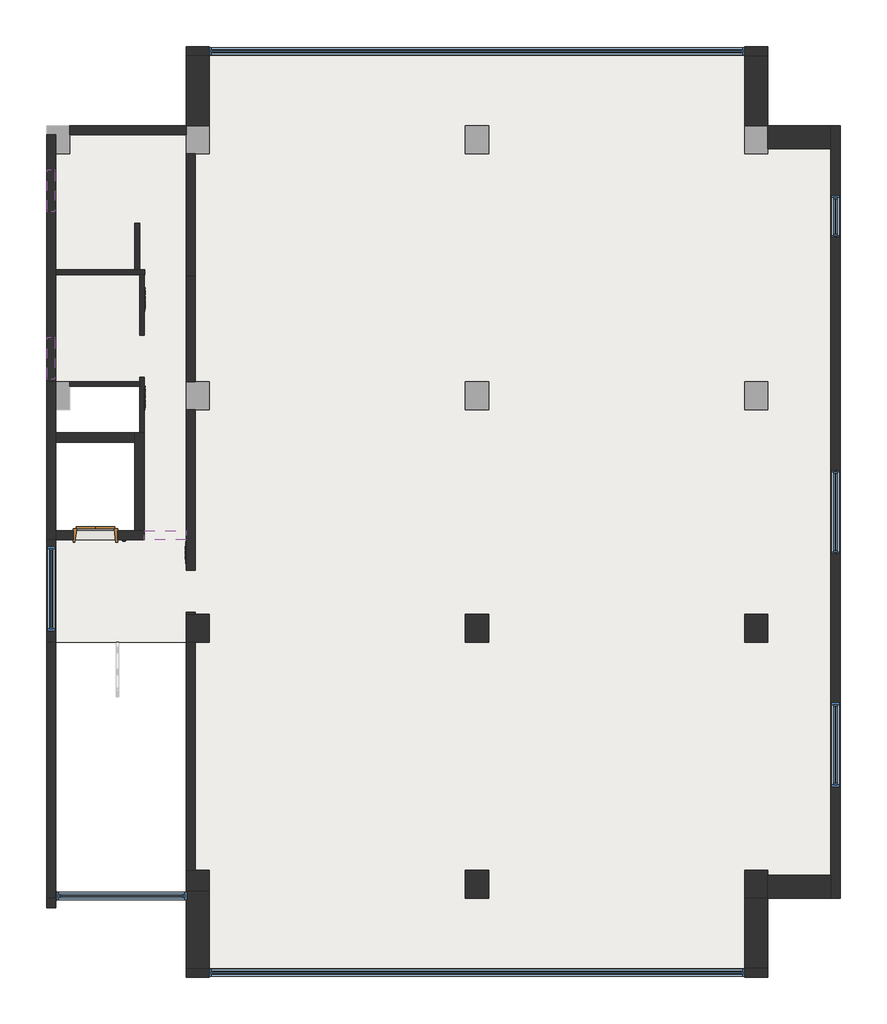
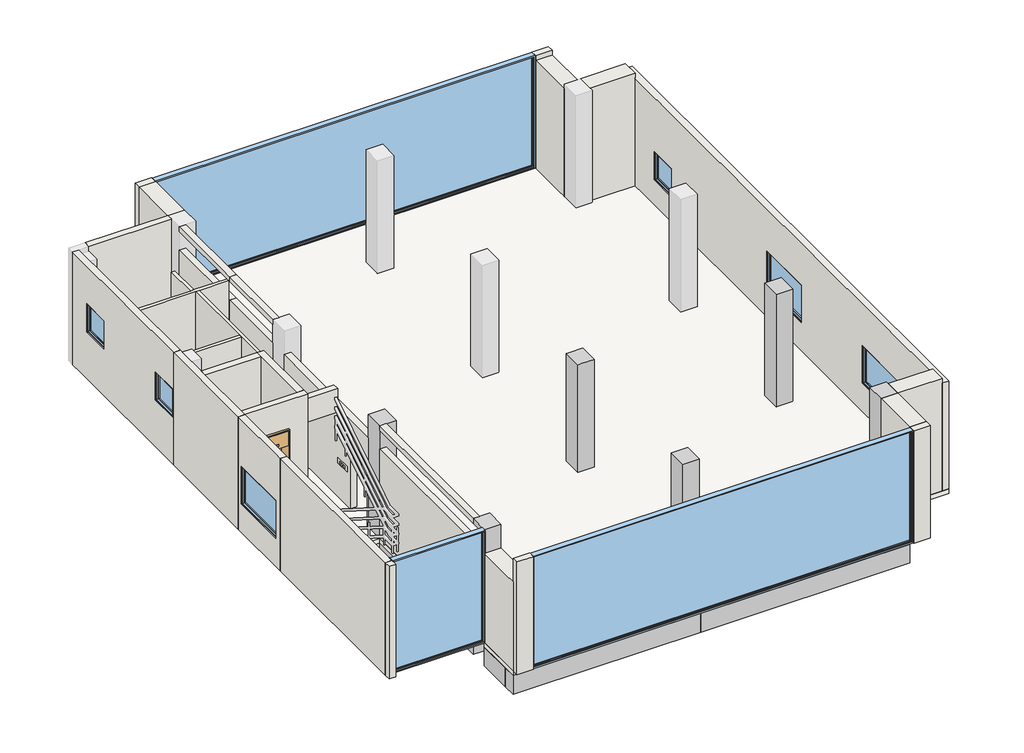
# One storey, part 1 of 2: 31 walls, 14 beams, 9 windows, 6 columns, 1 door, 1 slab.
"""IFC4 building model written with IfcOpenShell, lengths in millimetres."""

from ifc_helpers import new_model, si_unit, frame, origin, place, context, project, spatial, polyline, outline, extrude, faceted_brep, transform, mapped, element, save
from components import door_097e9757, window_16c43cb3, window_f2f41d25, window_07c90ac9, window_8a8d6591, window_3f7671e2

model = new_model("IFC4")

# Units and contexts
model_context = context("Model", 3, world=origin())
ifc_project = project(units=[si_unit("LENGTHUNIT", "METRE", prefix="MILLI")], contexts=[model_context])

# Site, building, storey
site = spatial("IfcSite", under=ifc_project)
building = spatial("IfcBuilding", under=site)
storey = spatial("IfcBuildingStorey", under=building, Name="4층", Elevation=11100.0)

# Beams
placement = place(None, origin())
element("IfcBeam", 1, ObjectType="BM100-구조 보 : BM100-구조 보 400x600", at=placement, inside=storey, context=model_context, shape_type="Brep", body=[
    faceted_brep([(3250.0, 100.0, 10950.0), (3250.0, -300.0, 10950.0), (8750.0, -300.0, 10950.0), (8750.0, 100.0, 10950.0), (5963.2625647, 100.0, 10950.0), (5663.2625647, 100.0, 10950.0), (3250.0, -300.0, 10350.0), (8750.0, -300.0, 10350.0), (3250.0, 100.0, 10350.0), (5663.2625647, 100.0, 10350.0), (5963.2625647, 100.0, 10350.0), (8750.0, 100.0, 10350.0)], [[[0, 1, 2, 3, 4, 5]], [[1, 6, 7, 2]], [[6, 8, 9, 10, 11, 7]], [[8, 0, 5, 4, 3, 11, 10, 9]], [[0, 8, 6, 1]], [[3, 2, 7, 11]]]),
])
element("IfcBeam", 2, ObjectType="BM100-구조 보 : BM100-구조 보 400x600", at=placement, inside=storey, context=model_context, shape_type="Brep", body=[
    faceted_brep([(14750.0, -300.0, 10950.0), (14750.0, 100.0, 10950.0), (11963.2625647, 100.0, 10950.0), (11663.2625647, 100.0, 10950.0), (9250.0, 100.0, 10950.0), (9250.0, -300.0, 10950.0), (14750.0, -300.0, 10350.0), (9250.0, -300.0, 10350.0), (14750.0, 100.0, 10350.0), (9250.0, 100.0, 10350.0), (11663.2625647, 100.0, 10350.0), (11963.2625647, 100.0, 10350.0)], [[[0, 1, 2, 3, 4, 5]], [[6, 0, 5, 7]], [[8, 6, 7, 9, 10, 11]], [[1, 8, 11, 10, 9, 4, 3, 2]], [[1, 0, 6, 8]], [[5, 4, 9, 7]]]),
])
element("IfcBeam", 3, ObjectType="BM100-구조 보 : BM100-구조 보 400x600", at=placement, inside=storey, context=model_context, shape_type="Brep", body=[
    faceted_brep([(14750.0, 5300.0, 10950.0), (14750.0, 5700.0, 10950.0), (11963.2625647, 5700.0, 10950.0), (11663.2625647, 5700.0, 10950.0), (9250.0, 5700.0, 10950.0), (9250.0, 5300.0, 10950.0), (11663.2625647, 5300.0, 10950.0), (11963.2625647, 5300.0, 10950.0), (14750.0, 5300.0, 10350.0), (9250.0, 5300.0, 10350.0), (11663.2625647, 5300.0, 10350.0), (11963.2625647, 5300.0, 10350.0), (14750.0, 5700.0, 10350.0), (9250.0, 5700.0, 10350.0), (11663.2625647, 5700.0, 10350.0), (11963.2625647, 5700.0, 10350.0)], [[[0, 1, 2, 3, 4, 5, 6, 7]], [[8, 0, 7, 6, 5, 9, 10, 11]], [[12, 8, 11, 10, 9, 13, 14, 15]], [[1, 12, 15, 14, 13, 4, 3, 2]], [[1, 0, 8, 12]], [[5, 4, 13, 9]]]),
])
element("IfcBeam", 4, ObjectType="BM100-구조 보 : BM100-구조 보 400x600", at=placement, inside=storey, context=model_context, shape_type="SweptSolid", body=[
    extrude(outline(polyline([(14850.0, 5200.0), (15250.0, 5200.0), (15250.0, 300.0), (14850.0, 300.0), (14850.0, 5200.0)])), frame((0.0, 0.0, 10350.0), z_axis=(0.0, 0.0, 1.0), x_axis=(1.0, 0.0, 0.0)), (0.0, 0.0, 1.0), 600.0),
])
element("IfcBeam", 5, ObjectType="BM100-구조 보 : BM100-구조 보 300x600", at=placement, inside=storey, context=model_context, shape_type="SweptSolid", body=[
    extrude(outline(polyline([(11663.2625647, 5300.0), (11963.2625647, 5300.0), (11963.2625647, 100.0), (11663.2625647, 100.0), (11663.2625647, 5300.0)])), frame((0.0, 0.0, 10350.0), z_axis=(0.0, 0.0, 1.0), x_axis=(1.0, 0.0, 0.0)), (0.0, 0.0, 1.0), 600.0),
])
element("IfcBeam", 6, ObjectType="BM100-구조 보 : BM100-구조 보 400x600", at=placement, inside=storey, context=model_context, shape_type="SweptSolid", body=[
    extrude(outline(polyline([(9250.0, 300.0), (8850.0, 300.0), (8850.0, 5200.0), (9250.0, 5200.0), (9250.0, 300.0)])), frame((0.0, 0.0, 10350.0), z_axis=(0.0, 0.0, 1.0), x_axis=(1.0, 0.0, 0.0)), (0.0, 0.0, 1.0), 600.0),
])
element("IfcBeam", 7, ObjectType="BM100-구조 보 : BM100-구조 보 400x600", at=placement, inside=storey, context=model_context, shape_type="Brep", body=[
    faceted_brep([(2750.0, 300.0, 10950.0), (2950.0, 300.0, 10950.0), (3150.0, 300.0, 10950.0), (3150.0, 5200.0, 10950.0), (2950.0, 5200.0, 10950.0), (2750.0, 5200.0, 10950.0), (3150.0, 300.0, 10350.0), (3150.0, 5200.0, 10350.0), (2950.0, 300.0, 10350.0), (2750.0, 300.0, 10350.0), (2750.0, 5200.0, 10350.0), (2950.0, 5200.0, 10350.0)], [[[0, 1, 2, 3, 4, 5]], [[2, 6, 7, 3]], [[6, 8, 9, 10, 11, 7]], [[9, 0, 5, 10]], [[2, 1, 0, 9, 8, 6]], [[5, 4, 3, 7, 11, 10]]]),
])
element("IfcBeam", 8, ObjectType="BM100-구조 보 : BM100-구조 보 400x600", at=placement, inside=storey, context=model_context, shape_type="Brep", body=[
    faceted_brep([(8750.0, 5300.0, 10950.0), (8750.0, 5700.0, 10950.0), (5963.2625647, 5700.0, 10950.0), (5663.2625647, 5700.0, 10950.0), (3250.0, 5700.0, 10950.0), (3250.0, 5300.0, 10950.0), (5663.2625647, 5300.0, 10950.0), (5963.2625647, 5300.0, 10950.0), (8750.0, 5300.0, 10350.0), (3250.0, 5300.0, 10350.0), (5663.2625647, 5300.0, 10350.0), (5963.2625647, 5300.0, 10350.0), (8750.0, 5700.0, 10350.0), (3250.0, 5700.0, 10350.0), (5663.2625647, 5700.0, 10350.0), (5963.2625647, 5700.0, 10350.0)], [[[0, 1, 2, 3, 4, 5, 6, 7]], [[8, 0, 7, 6, 5, 9, 10, 11]], [[12, 8, 11, 10, 9, 13, 14, 15]], [[1, 12, 15, 14, 13, 4, 3, 2]], [[1, 0, 8, 12]], [[5, 4, 13, 9]]]),
])
element("IfcBeam", 9, ObjectType="BM100-구조 보 : BM100-구조 보 300x600", at=placement, inside=storey, context=model_context, shape_type="SweptSolid", body=[
    extrude(outline(polyline([(5663.2625647, 5300.0), (5963.2625647, 5300.0), (5963.2625647, 100.0), (5663.2625647, 100.0), (5663.2625647, 5300.0)])), frame((0.0, 0.0, 10350.0), z_axis=(0.0, 0.0, 1.0), x_axis=(1.0, 0.0, 0.0)), (0.0, 0.0, 1.0), 600.0),
])
element("IfcBeam", 10, ObjectType="BM100-구조 보 : BM100-구조 보 400x600", at=placement, inside=storey, context=model_context, shape_type="SweptSolid", body=[
    extrude(outline(polyline([(15250.0, 5300.0), (15250.0, 5700.0), (16600.0, 5700.0), (16600.0, 5300.0), (15250.0, 5300.0)])), frame((0.0, 0.0, 10350.0), z_axis=(0.0, 0.0, 1.0), x_axis=(1.0, 0.0, 0.0)), (0.0, 0.0, 1.0), 600.0),
])
element("IfcBeam", 11, ObjectType="BM100-구조 보 : BM100-구조 보 400x600", at=placement, inside=storey, context=model_context, shape_type="Brep", body=[
    faceted_brep([(8424.6, -1800.0, 10950.0), (8424.6, -1400.0, 10950.0), (8424.6, -1400.0, 10350.0), (8424.6, -1800.0, 10350.0), (14750.0, -1800.0, 10950.0), (14750.0, -1400.0, 10950.0), (9250.0, -1400.0, 10950.0), (8850.0, -1400.0, 10950.0), (14750.0, -1800.0, 10350.0), (8850.0, -1400.0, 10350.0), (9250.0, -1400.0, 10350.0), (14750.0, -1400.0, 10350.0)], [[[0, 1, 2, 3]], [[1, 0, 4, 5, 6, 7]], [[0, 3, 8, 4]], [[3, 2, 9, 10, 11, 8]], [[2, 1, 7, 6, 5, 11, 10, 9]], [[5, 4, 8, 11]]]),
])
element("IfcBeam", 12, ObjectType="BM100-구조 보 : BM100-구조 보 400x600", at=placement, inside=storey, context=model_context, shape_type="SweptSolid", body=[
    extrude(outline(polyline([(8850.0, -300.0), (9250.0, -300.0), (9250.0, -1400.0), (8850.0, -1400.0), (8850.0, -300.0)])), frame((0.0, 0.0, 10350.0), z_axis=(0.0, 0.0, 1.0), x_axis=(1.0, 0.0, 0.0)), (0.0, 0.0, 1.0), 600.0),
])
element("IfcBeam", 13, ObjectType="BM100-구조 보 : BM100-구조 보 400x600", at=placement, inside=storey, context=model_context, shape_type="Brep", body=[
    faceted_brep([(2750.0, -1400.0, 10950.0), (2750.0, -1800.0, 10950.0), (8424.6, -1800.0, 10950.0), (8424.6, -1400.0, 10950.0), (3150.0, -1400.0, 10950.0), (2750.0, -1800.0, 10350.0), (3250.0, -1800.0, 10350.0), (8424.6, -1800.0, 10350.0), (2750.0, -1400.0, 10350.0), (3150.0, -1400.0, 10350.0), (8424.6, -1400.0, 10350.0)], [[[0, 1, 2, 3, 4]], [[1, 5, 6, 7, 2]], [[5, 8, 9, 10, 7, 6]], [[8, 0, 4, 3, 10, 9]], [[1, 0, 8, 5]], [[3, 2, 7, 10]]]),
])
element("IfcBeam", 14, ObjectType="BM100-구조 보 : BM100-구조 보 400x600", at=placement, inside=storey, context=model_context, shape_type="Brep", body=[
    faceted_brep([(2750.0, -1400.0, 10950.0), (2750.0, -1400.0, 10350.0), (3150.0, -1400.0, 10350.0), (3150.0, -1400.0, 10950.0), (3150.0, -300.0, 10950.0), (2750.0, -300.0, 10950.0), (3150.0, -300.0, 10350.0), (2750.0, -350.0, 10350.0), (2750.0, -300.0, 10350.0)], [[[0, 1, 2, 3]], [[0, 3, 4, 5]], [[3, 2, 6, 4]], [[2, 1, 7, 8, 6]], [[1, 0, 5, 8, 7]], [[5, 4, 6, 8]]]),
])

# Columns
element("IfcColumn", 15, ObjectType="CL100-구조 기둥 : CL100-구조 기둥_500x600", at=placement, inside=storey, context=model_context, shape_type="Brep", body=[
    faceted_brep([(2750.0, -300.0, 11100.0), (2750.0, 300.0, 11100.0), (3250.0, 300.0, 11100.0), (3250.0, -150.0, 11100.0), (2761.4613019, -150.0, 11100.0), (2761.4613019, -300.0, 11100.0), (2750.0, -300.0, 14700.0), (2750.0, 300.0, 14700.0), (2750.0, 300.0, 14550.0), (2750.0, 25.0, 14550.0), (2750.0, 25.0, 13950.0), (2750.0, 300.0, 13950.0), (3150.0, 300.0, 13950.0), (3150.0, 300.0, 14550.0), (3250.0, 300.0, 14700.0), (3250.0, -300.0, 14700.0), (3250.0, -300.0, 13950.0), (3250.0, -150.0, 13950.0), (2761.4613019, -300.0, 13950.0), (3150.0, 25.0, 14550.0), (3150.0, 25.0, 13950.0), (2761.4613019, -150.0, 13950.0)], [[[0, 1, 2, 3, 4, 5]], [[1, 0, 6, 7, 8, 9, 10, 11]], [[2, 1, 11, 12, 13, 8, 7, 14]], [[2, 14, 15, 16, 17, 3]], [[6, 0, 5, 18, 16, 15]], [[7, 6, 15, 14]], [[13, 19, 9, 8]], [[19, 13, 12, 20]], [[20, 12, 11, 10]], [[21, 17, 16, 18]], [[17, 21, 4, 3]], [[9, 19, 20, 10]], [[4, 21, 18, 5]]]),
])
element("IfcColumn", 16, ObjectType="CL100-구조 기둥 : CL100-구조 기둥_500x600", at=placement, inside=storey, context=model_context, shape_type="Brep", body=[
    faceted_brep([(8750.0, -300.0, 11100.0), (8750.0, 300.0, 11100.0), (9250.0, 300.0, 11100.0), (9250.0, -300.0, 11100.0), (8750.0, -300.0, 14700.0), (8750.0, 300.0, 14700.0), (8750.0, -300.0, 13950.0), (8750.0, -300.0, 14550.0), (9250.0, 300.0, 14700.0), (9250.0, 300.0, 14550.0), (9250.0, 300.0, 13950.0), (9250.0, -300.0, 14700.0), (9250.0, -300.0, 14550.0), (9250.0, -300.0, 13950.0)], [[[0, 1, 2, 3]], [[4, 5, 1, 0, 6, 7]], [[5, 8, 9, 10, 2, 1]], [[8, 11, 12, 13, 3, 2, 10, 9]], [[11, 4, 7, 6, 0, 3, 13, 12]], [[4, 11, 8, 5]]]),
])
element("IfcColumn", 17, ObjectType="CL100-구조 기둥 : CL100-구조 기둥_500x600", at=placement, inside=storey, context=model_context, shape_type="Brep", body=[
    faceted_brep([(2750.0, 5200.0, 11100.0), (2750.0, 5800.0, 11100.0), (3250.0, 5800.0, 11100.0), (3250.0, 5200.0, 11100.0), (2750.0, 5200.0, 14700.0), (2750.0, 5800.0, 14700.0), (2750.0, 5800.0, 14550.0), (2750.0, 5800.0, 13950.0), (2750.0, 5200.0, 13950.0), (2750.0, 5200.0, 14550.0), (3250.0, 5800.0, 14700.0), (3250.0, 5200.0, 14700.0)], [[[0, 1, 2, 3]], [[4, 5, 6, 7, 1, 0, 8, 9]], [[5, 10, 2, 1, 7, 6]], [[10, 11, 3, 2]], [[11, 4, 9, 8, 0, 3]], [[4, 11, 10, 5]]]),
])
element("IfcColumn", 18, ObjectType="CL100-구조 기둥 : CL100-구조 기둥_500x600", at=placement, inside=storey, context=model_context, shape_type="Brep", body=[
    faceted_brep([(8750.0, 5200.0, 11100.0), (8750.0, 5800.0, 11100.0), (9250.0, 5800.0, 11100.0), (9250.0, 5200.0, 11100.0), (8750.0, 5200.0, 14550.0), (8750.0, 5800.0, 14550.0), (8850.0, 5800.0, 14550.0), (9250.0, 5800.0, 14550.0), (9250.0, 5800.0, 13950.0), (9250.0, 5700.0, 14550.0), (9250.0, 5300.0, 14550.0), (9250.0, 5200.0, 14550.0), (9250.0, 5200.0, 13950.0), (8850.0, 5200.0, 14550.0)], [[[0, 1, 2, 3]], [[1, 0, 4, 5]], [[2, 1, 5, 6, 7, 8]], [[3, 2, 8, 7, 9, 10, 11, 12]], [[0, 3, 12, 11, 13, 4]], [[5, 4, 13, 11, 10, 9, 7, 6]]]),
])
element("IfcColumn", 19, ObjectType="CL100-구조 기둥 : CL100-구조 기둥_500x600", at=placement, inside=storey, context=model_context, shape_type="SweptSolid", body=[
    extrude(outline(polyline([(14750.0, 5200.0), (14750.0, 5800.0), (15250.0, 5800.0), (15250.0, 5200.0), (14750.0, 5200.0)])), frame((0.0, 0.0, 11100.0), z_axis=(0.0, 0.0, 1.0), x_axis=(1.0, 0.0, 0.0)), (0.0, 0.0, 1.0), 3600.0),
])
element("IfcColumn", 20, ObjectType="CL100-구조 기둥 : CL100-구조 기둥_500x600", at=placement, inside=storey, context=model_context, shape_type="SweptSolid", body=[
    extrude(outline(polyline([(14750.0, -300.0), (14750.0, 300.0), (15250.0, 300.0), (15250.0, -300.0), (14750.0, -300.0)])), frame((0.0, 0.0, 11100.0), z_axis=(0.0, 0.0, 1.0), x_axis=(1.0, 0.0, 0.0)), (0.0, 0.0, 1.0), 3600.0),
])

# Door
door_shape = door_097e9757(model_context)
element("IfcDoor", 21, ObjectType="XX111-승객용 엘리베이터 (다용도, 800KG) 상판 출입구800 : 엘리베이터 800", at=placement, inside=storey, context=model_context, shape_type="MappedRepresentation", body=[
    mapped(door_shape, transform((925.0, 7500.0, 11200.0), x_axis=(-1.0, 0.0, 0.0), y_axis=(0.0, -1.0, 0.0), z_axis=(0.0, 0.0, 1.0))),
])

# Slab
element("IfcSlab", 22, ObjectType="SL100-구조 바닥 150", at=placement, inside=storey, context=model_context, shape_type="Brep", body=[
    faceted_brep([(-50.0, 5200.0, 10950.0), (-50.0, 7400.0, 10950.0), (1850.0, 7400.0, 10950.0), (1850.0, 7600.0, 10950.0), (1850.0, 9700.0, 10950.0), (1750.0, 9700.0, 10950.0), (1750.0, 10700.0, 10950.0), (250.0, 10700.0, 10950.0), (-50.0, 10700.0, 10950.0), (-50.0, 10800.0, 10950.0), (-50.0, 15700.0, 10950.0), (-50.0, 16100.0, 10950.0), (250.0, 16100.0, 10950.0), (2750.0, 16100.0, 10950.0), (2750.0, 15700.0, 10950.0), (3150.0, 15700.0, 10950.0), (3250.0, 15700.0, 10950.0), (3250.0, 15900.0, 10950.0), (3250.0, 16300.0, 10950.0), (3250.0, 17400.0, 10950.0), (3250.0, 17800.0, 10950.0), (8850.0, 17800.0, 10950.0), (14750.0, 17800.0, 10950.0), (15250.0, 17800.0, 10950.0), (15250.0, 16300.0, 10950.0), (16800.0, 16300.0, 10950.0), (16800.0, -300.0, 10950.0), (15250.0, -300.0, 10950.0), (15250.0, 200.0, 10950.0), (14750.0, 200.0, 10950.0), (14750.0, 100.0, 10950.0), (14750.0, -300.0, 10950.0), (14750.0, -1400.0, 10950.0), (14750.0, -1800.0, 10950.0), (8424.6, -1800.0, 10950.0), (2750.0, -1800.0, 10950.0), (2750.0, -1400.0, 10950.0), (2750.0, -300.0, 10950.0), (3150.0, -300.0, 10950.0), (3250.0, -300.0, 10950.0), (3250.0, 100.0, 10950.0), (3250.0, 300.0, 10950.0), (3150.0, 300.0, 10950.0), (2750.0, 300.0, 10950.0), (2750.0, 5200.0, 10950.0), (-50.0, 7400.0, 11100.0), (-50.0, 5200.0, 11100.0), (2750.0, 5200.0, 11100.0), (2750.0, 300.0, 11100.0), (3250.0, 300.0, 11100.0), (3250.0, -300.0, 11100.0), (2750.0, -300.0, 11100.0), (2750.0, -1800.0, 11100.0), (14750.0, -1800.0, 11100.0), (14750.0, -300.0, 11100.0), (14750.0, 200.0, 11100.0), (15250.0, 200.0, 11100.0), (15250.0, -300.0, 11100.0), (16800.0, -300.0, 11100.0), (16800.0, 16300.0, 11100.0), (15250.0, 16300.0, 11100.0), (15250.0, 17800.0, 11100.0), (3250.0, 17800.0, 11100.0), (3250.0, 16300.0, 11100.0), (3250.0, 16100.0, 11100.0), (3250.0, 15700.0, 11100.0), (2750.0, 15700.0, 11100.0), (2750.0, 16100.0, 11100.0), (250.0, 16100.0, 11100.0), (-50.0, 16100.0, 11100.0), (-50.0, 15700.0, 11100.0), (-50.0, 10800.0, 11100.0), (-50.0, 10700.0, 11100.0), (250.0, 10700.0, 11100.0), (1750.0, 10700.0, 11100.0), (1750.0, 9700.0, 11100.0), (1850.0, 9700.0, 11100.0), (1850.0, 7600.0, 11100.0), (1850.0, 7400.0, 11100.0)], [[[0, 1, 2, 3, 4, 5, 6, 7, 8, 9, 10, 11, 12, 13, 14, 15, 16, 17, 18, 19, 20, 21, 22, 23, 24, 25, 26, 27, 28, 29, 30, 31, 32, 33, 34, 35, 36, 37, 38, 39, 40, 41, 42, 43, 44]], [[45, 46, 47, 48, 49, 50, 51, 52, 53, 54, 55, 56, 57, 58, 59, 60, 61, 62, 63, 64, 65, 66, 67, 68, 69, 70, 71, 72, 73, 74, 75, 76, 77, 78]], [[1, 0, 46, 45]], [[47, 44, 43, 48]], [[35, 52, 51, 37, 36]], [[0, 44, 47, 46]], [[26, 25, 59, 58]], [[52, 35, 34, 33, 53]], [[2, 1, 45, 78]], [[4, 3, 2, 78, 77, 76]], [[8, 7, 6, 74, 73, 72]], [[11, 10, 9, 8, 72, 71, 70, 69]], [[43, 42, 41, 49, 48]], [[39, 50, 49, 41, 40]], [[50, 39, 38, 37, 51]], [[66, 14, 13, 67]], [[14, 66, 65, 16, 15]], [[5, 4, 76, 75]], [[6, 5, 75, 74]], [[13, 12, 11, 69, 68, 67]], [[61, 23, 22, 21, 20, 62]], [[24, 23, 61, 60]], [[25, 24, 60, 59]], [[27, 26, 58, 57]], [[16, 65, 64, 63, 62, 20, 19, 18, 17]], [[29, 55, 54, 53, 33, 32, 31, 30]], [[56, 28, 27, 57]], [[55, 29, 28, 56]]]),
])

# Walls
element("IfcWall", 23, ObjectType="WA100-구조 벽 500", at=placement, inside=storey, context=model_context, shape_type="Brep", body=[
    faceted_brep([(2750.0, -1800.0, 11100.0), (2750.0, -1800.0, 13950.0), (2750.0, -1400.0, 13950.0), (2750.0, -350.0, 13950.0), (2750.0, -350.0, 11100.0), (3250.0, -1800.0, 11100.0), (3250.0, -300.0, 11100.0), (3250.0, -150.0, 11100.0), (3250.0, -150.0, 13950.0), (3250.0, -300.0, 13950.0), (3250.0, -1800.0, 13950.0), (2761.4613019, -350.0, 11100.0), (2761.4613019, -300.0, 11100.0), (2761.4613019, -150.0, 11100.0), (2761.4613019, -150.0, 13950.0), (2761.4613019, -300.0, 13950.0), (2761.4613019, -350.0, 13950.0)], [[[0, 1, 2, 3, 4]], [[5, 6, 7, 8, 9, 10]], [[7, 6, 5, 0, 4, 11, 12, 13]], [[10, 9, 8, 14, 15, 16, 3, 2, 1]], [[1, 0, 5, 10]], [[8, 7, 13, 14]], [[16, 11, 4, 3]], [[11, 16, 15, 14, 13, 12]]]),
])
element("IfcWall", 24, ObjectType="WA100-구조 벽 500", at=placement, inside=storey, context=model_context, shape_type="Brep", body=[
    faceted_brep([(14750.0, -1800.0, 11100.0), (14750.0, -1800.0, 14550.0), (14750.0, -1800.0, 14700.0), (14750.0, -300.0, 14700.0), (14750.0, -300.0, 11100.0), (15250.0, -1800.0, 14700.0), (15250.0, -1800.0, 11100.0), (15250.0, -300.0, 11100.0), (15250.0, -300.0, 14700.0)], [[[0, 1, 2, 3, 4]], [[5, 6, 7, 8]], [[6, 0, 4, 7]], [[2, 5, 8, 3]], [[4, 3, 8, 7]], [[2, 1, 0, 6, 5]]]),
])
element("IfcWall", 25, ObjectType="WA100-구조 벽 200", at=placement, inside=storey, context=model_context, shape_type="Brep", body=[
    faceted_brep([(16800.0, -300.0, 11100.0), (16800.0, 16300.0, 11100.0), (16800.0, 16300.0, 14550.0), (16800.0, -300.0, 14550.0), (16800.0, 8900.0, 13200.0), (16800.0, 8900.0, 12000.0), (16800.0, 7100.0, 12000.0), (16800.0, 7100.0, 13200.0), (16800.0, 14800.0, 12800.0), (16800.0, 14800.0, 11900.0), (16800.0, 13900.0, 11900.0), (16800.0, 13900.0, 12800.0), (16800.0, 3900.0, 13200.0), (16800.0, 3900.0, 12000.0), (16800.0, 2100.0, 12000.0), (16800.0, 2100.0, 13200.0), (16600.0, 16300.0, 11100.0), (16600.0, 15800.0, 11100.0), (16600.0, 200.0, 11100.0), (16600.0, -300.0, 11100.0), (16600.0, -300.0, 14550.0), (16600.0, 16300.0, 14550.0), (16600.0, 8900.0, 12000.0), (16600.0, 8900.0, 13200.0), (16600.0, 7100.0, 13200.0), (16600.0, 7100.0, 12000.0), (16600.0, 14800.0, 11900.0), (16600.0, 14800.0, 12800.0), (16600.0, 13900.0, 12800.0), (16600.0, 13900.0, 11900.0), (16600.0, 3900.0, 12000.0), (16600.0, 3900.0, 13200.0), (16600.0, 2100.0, 13200.0), (16600.0, 2100.0, 12000.0)], [[[0, 1, 2, 3], [4, 5, 6, 7], [8, 9, 10, 11], [12, 13, 14, 15]], [[16, 17, 18, 19, 20, 21], [22, 23, 24, 25], [26, 27, 28, 29], [30, 31, 32, 33]], [[1, 0, 19, 18, 17, 16]], [[19, 0, 3, 20]], [[1, 16, 21, 2]], [[5, 4, 23, 22]], [[6, 5, 22, 25]], [[7, 6, 25, 24]], [[4, 7, 24, 23]], [[9, 8, 27, 26]], [[10, 9, 26, 29]], [[11, 10, 29, 28]], [[8, 11, 28, 27]], [[13, 12, 31, 30]], [[14, 13, 30, 33]], [[15, 14, 33, 32]], [[12, 15, 32, 31]], [[3, 2, 21, 20]]]),
])
element("IfcWall", 26, ObjectType="WA100-구조 벽 500", at=placement, inside=storey, context=model_context, shape_type="SweptSolid", body=[
    extrude(outline(polyline([(16600.0, -300.0), (15250.0, -300.0), (15250.0, 200.0), (16600.0, 200.0), (16600.0, -300.0)])), frame((0.0, 0.0, 11100.0), z_axis=(0.0, 0.0, 1.0), x_axis=(1.0, 0.0, 0.0)), (0.0, 0.0, 1.0), 3600.0),
])
element("IfcWall", 27, ObjectType="WA100-구조 벽 500", at=placement, inside=storey, context=model_context, shape_type="Brep", body=[
    faceted_brep([(3250.0, 17800.0, 11100.0), (3250.0, 17800.0, 14550.0), (3250.0, 17800.0, 14700.0), (3250.0, 16300.0, 14700.0), (3250.0, 16300.0, 11100.0), (2750.0, 17800.0, 14700.0), (2750.0, 17800.0, 11100.0), (2750.0, 16300.0, 11100.0), (2750.0, 16300.0, 14700.0)], [[[0, 1, 2, 3, 4]], [[5, 6, 7, 8]], [[6, 0, 4, 7]], [[2, 1, 0, 6, 5]], [[2, 5, 8, 3]], [[4, 3, 8, 7]]]),
])
element("IfcWall", 28, ObjectType="WA100-구조 벽 500", at=placement, inside=storey, context=model_context, shape_type="SweptSolid", body=[
    extrude(outline(polyline([(14750.0, 17800.0), (15250.0, 17800.0), (15250.0, 16300.0), (14750.0, 16300.0), (14750.0, 17800.0)])), frame((0.0, 0.0, 11100.0), z_axis=(0.0, 0.0, 1.0), x_axis=(1.0, 0.0, 0.0)), (0.0, 0.0, 1.0), 3450.0),
])
element("IfcWall", 29, ObjectType="WA100-구조 벽 500", at=placement, inside=storey, context=model_context, shape_type="Brep", body=[
    faceted_brep([(15250.0, 15800.0, 11100.0), (16600.0, 15800.0, 11100.0), (16600.0, 15800.0, 14700.0), (15250.0, 15800.0, 14700.0), (15250.0, 16300.0, 11100.0), (15250.0, 16300.0, 14700.0), (16600.0, 16300.0, 14700.0), (16600.0, 16300.0, 14550.0), (16600.0, 16300.0, 11100.0)], [[[0, 1, 2, 3]], [[4, 5, 6, 7, 8]], [[1, 0, 4, 8]], [[3, 2, 6, 5]], [[2, 1, 8, 7, 6]], [[0, 3, 5, 4]]]),
])
element("IfcWall", 30, ObjectType="WA100-구조 벽 200", at=placement, inside=storey, context=model_context, shape_type="SweptSolid", body=[
    extrude(outline(polyline([(-50.0, 5200.0), (-50.0, -300.0), (-250.0, -300.0), (-250.0, 5200.0), (-50.0, 5200.0)])), frame((0.0, 0.0, 11100.0), z_axis=(0.0, 0.0, 1.0), x_axis=(1.0, 0.0, 0.0)), (0.0, 0.0, 1.0), 3600.0),
])
element("IfcWall", 31, ObjectType="WA100-구조 벽 200", at=placement, inside=storey, context=model_context, shape_type="Brep", body=[
    faceted_brep([(-50.0, 7400.0, 11100.0), (1850.0, 7400.0, 11100.0), (1850.0, 7400.0, 13800.0), (1850.0, 7400.0, 14550.0), (1850.0, 7400.0, 14700.0), (-50.0, 7400.0, 14700.0), (-50.0, 7400.0, 14550.0), (1275.0, 7400.0, 13800.0), (1275.0, 7400.0, 11200.0), (325.0, 7400.0, 11200.0), (325.0, 7400.0, 13800.0), (1850.0, 7600.0, 11100.0), (1650.0, 7600.0, 11100.0), (-50.0, 7600.0, 11100.0), (-50.0, 7600.0, 14700.0), (1650.0, 7600.0, 14700.0), (1850.0, 7600.0, 14700.0), (1850.0, 7600.0, 14550.0), (1850.0, 7600.0, 13800.0), (1275.0, 7600.0, 11200.0), (1275.0, 7600.0, 13800.0), (325.0, 7600.0, 13800.0), (325.0, 7600.0, 11200.0)], [[[0, 1, 2, 3, 4, 5, 6], [7, 8, 9, 10]], [[11, 12, 13, 14, 15, 16, 17, 18], [19, 20, 21, 22]], [[1, 0, 13, 12, 11]], [[5, 4, 16, 15, 14]], [[7, 20, 19, 8]], [[8, 19, 22, 9]], [[21, 10, 9, 22]], [[20, 7, 10, 21]], [[5, 14, 13, 0, 6]], [[1, 11, 18, 17, 16, 4, 3, 2]]]),
])
element("IfcWall", 32, ObjectType="WA700-수장 벽 100", at=placement, inside=storey, context=model_context, shape_type="SweptSolid", body=[
    extrude(outline(polyline([(1750.0, 10700.0), (250.0, 10700.0), (250.0, 10800.0), (1750.0, 10800.0), (1750.0, 10700.0)])), frame((0.0, 0.0, 11100.0), z_axis=(0.0, 0.0, 1.0), x_axis=(1.0, 0.0, 0.0)), (0.0, 0.0, 1.0), 3450.0),
])
element("IfcWall", 33, ObjectType="WA100-구조 벽 200", at=placement, inside=storey, context=model_context, shape_type="Brep", body=[
    faceted_brep([(1850.0, 7600.0, 14700.0), (1850.0, 7600.0, 11100.0), (1850.0, 9700.0, 11100.0), (1850.0, 9700.0, 14700.0), (1650.0, 7600.0, 11100.0), (1650.0, 7600.0, 14700.0), (1650.0, 9500.0, 14700.0), (1650.0, 9700.0, 14700.0), (1650.0, 9700.0, 11100.0), (1650.0, 9500.0, 11100.0)], [[[0, 1, 2, 3]], [[4, 5, 6, 7, 8, 9]], [[2, 1, 4, 9, 8]], [[0, 3, 7, 6, 5]], [[2, 8, 7, 3]], [[0, 5, 4, 1]]]),
])
element("IfcWall", 34, ObjectType="WA100-구조 벽 200", at=placement, inside=storey, context=model_context, shape_type="SweptSolid", body=[
    extrude(outline(polyline([(1650.0, 9500.0), (-50.0, 9500.0), (-50.0, 9700.0), (1650.0, 9700.0), (1650.0, 9500.0)])), frame((0.0, 0.0, 11100.0), z_axis=(0.0, 0.0, 1.0), x_axis=(1.0, 0.0, 0.0)), (0.0, 0.0, 1.0), 3600.0),
])
element("IfcWall", 35, ObjectType="WA700-수장 벽 100", at=placement, inside=storey, context=model_context, shape_type="Brep", body=[
    faceted_brep([(1750.0, 9700.0, 11100.0), (1750.0, 9700.0, 14550.0), (1750.0, 10700.0, 14550.0), (1750.0, 10800.0, 14550.0), (1750.0, 13100.0, 14550.0), (1750.0, 13100.0, 11100.0), (1750.0, 11795.0, 11100.0), (1750.0, 11795.0, 12900.0), (1750.0, 10895.0, 12900.0), (1750.0, 10895.0, 11100.0), (1750.0, 10800.0, 11100.0), (1750.0, 10700.0, 11100.0), (1850.0, 13100.0, 14550.0), (1850.0, 9700.0, 14550.0), (1850.0, 9700.0, 11100.0), (1850.0, 10895.0, 11100.0), (1850.0, 10895.0, 12900.0), (1850.0, 11795.0, 12900.0), (1850.0, 11795.0, 11100.0), (1850.0, 13100.0, 11100.0)], [[[0, 1, 2, 3, 4, 5, 6, 7, 8, 9, 10, 11]], [[12, 13, 14, 15, 16, 17, 18, 19]], [[14, 0, 11, 10, 9, 15]], [[5, 19, 18, 6]], [[1, 0, 14, 13]], [[5, 4, 12, 19]], [[13, 12, 4, 3, 2, 1]], [[8, 16, 15, 9]], [[16, 8, 7, 17]], [[17, 7, 6, 18]]]),
])
element("IfcWall", 36, ObjectType="WA700-수장 벽 100", at=placement, inside=storey, context=model_context, shape_type="Brep", body=[
    faceted_brep([(-50.0, 13100.0, 14550.0), (-50.0, 13100.0, 11100.0), (1750.0, 13100.0, 11100.0), (1850.0, 13100.0, 11100.0), (1855.0, 13100.0, 11100.0), (1855.0, 13100.0, 12900.0), (2750.0, 13100.0, 12900.0), (2750.0, 13100.0, 14550.0), (1850.0, 13100.0, 14550.0), (1750.0, 13100.0, 14550.0), (-50.0, 13200.0, 11100.0), (-50.0, 13200.0, 14550.0), (1650.0, 13200.0, 14550.0), (1750.0, 13200.0, 14550.0), (2750.0, 13200.0, 14550.0), (2750.0, 13200.0, 12900.0), (1855.0, 13200.0, 12900.0), (1855.0, 13200.0, 11100.0), (1750.0, 13200.0, 11100.0), (1650.0, 13200.0, 11100.0)], [[[0, 1, 2, 3, 4, 5, 6, 7, 8, 9]], [[10, 11, 12, 13, 14, 15, 16, 17, 18, 19]], [[1, 10, 19, 18, 17, 4, 3, 2]], [[1, 0, 11, 10]], [[14, 7, 6, 15]], [[0, 9, 8, 7, 14, 13, 12, 11]], [[5, 16, 15, 6]], [[16, 5, 4, 17]]]),
])
element("IfcWall", 37, ObjectType="WA700-수장 벽 100", at=placement, inside=storey, context=model_context, shape_type="SweptSolid", body=[
    extrude(outline(polyline([(1750.0, 14200.0), (1750.0, 13200.0), (1650.0, 13200.0), (1650.0, 14200.0), (1750.0, 14200.0)])), frame((0.0, 0.0, 11100.0), z_axis=(0.0, 0.0, 1.0), x_axis=(1.0, 0.0, 0.0)), (0.0, 0.0, 1.0), 3450.0),
])
element("IfcWall", 38, ObjectType="WA100-구조 벽 200", at=placement, inside=storey, context=model_context, shape_type="SweptSolid", body=[
    extrude(outline(polyline([(5845.0, 11100.0), (5800.0, 11100.0), (5800.0, 13950.0), (10200.0, 13950.0), (10200.0, 11100.0), (6745.0, 11100.0), (6745.0, 12900.0), (5845.0, 12900.0), (5845.0, 11100.0)])), frame((2750.0, 0.0, 0.0), z_axis=(1.0, 0.0, 0.0), x_axis=(0.0, 1.0, 0.0)), (0.0, 0.0, 1.0), 200.0),
])
element("IfcWall", 39, ObjectType="WA100-구조 벽 200", at=placement, inside=storey, context=model_context, shape_type="SweptSolid", body=[
    extrude(outline(polyline([(2950.0, 5200.0), (2950.0, 300.0), (2750.0, 300.0), (2750.0, 5200.0), (2950.0, 5200.0)])), frame((0.0, 0.0, 11100.0), z_axis=(0.0, 0.0, 1.0), x_axis=(1.0, 0.0, 0.0)), (0.0, 0.0, 1.0), 2850.0),
    extrude(outline(polyline([(2950.0, 5200.0), (2950.0, 300.0), (2750.0, 300.0), (2750.0, 5200.0), (2950.0, 5200.0)])), frame((0.0, 0.0, 14550.0), z_axis=(0.0, 0.0, 1.0), x_axis=(1.0, 0.0, 0.0)), (0.0, 0.0, 1.0), 150.0),
])
element("IfcWall", 40, ObjectType="WA100-구조 벽 200", at=placement, inside=storey, context=model_context, shape_type="Brep", body=[
    faceted_brep([(2750.0, 13060.0, 14700.0), (2750.0, 15700.0, 14700.0), (2750.0, 15700.0, 14550.0), (2750.0, 13060.0, 14550.0), (2950.0, 15700.0, 14700.0), (2950.0, 13060.0, 14700.0), (2950.0, 13060.0, 14550.0), (2950.0, 15700.0, 14550.0)], [[[0, 1, 2, 3]], [[4, 5, 6, 7]], [[5, 0, 3, 6]], [[1, 0, 5, 4]], [[1, 4, 7, 2]], [[3, 2, 7, 6]]]),
    faceted_brep([(2750.0, 13100.0, 11100.0), (2750.0, 13060.0, 11100.0), (2750.0, 13060.0, 13950.0), (2750.0, 15700.0, 13950.0), (2750.0, 15700.0, 11100.0), (2750.0, 13200.0, 11100.0), (2750.0, 13200.0, 12900.0), (2750.0, 13100.0, 12900.0), (2950.0, 13060.0, 11100.0), (2950.0, 15700.0, 11100.0), (2950.0, 15700.0, 13950.0), (2950.0, 13060.0, 13950.0), (2755.0, 13100.0, 11100.0), (2755.0, 13200.0, 11100.0), (2755.0, 13100.0, 12900.0), (2755.0, 13200.0, 12900.0)], [[[0, 1, 2, 3, 4, 5, 6, 7]], [[8, 9, 10, 11]], [[9, 8, 1, 0, 12, 13, 5, 4]], [[1, 8, 11, 2]], [[9, 4, 3, 10]], [[3, 2, 11, 10]], [[14, 12, 0, 7]], [[13, 15, 6, 5]], [[12, 14, 15, 13]], [[15, 14, 7, 6]]]),
])
element("IfcWall", 41, ObjectType="WA100-구조 벽 200", at=placement, inside=storey, context=model_context, shape_type="Brep", body=[
    faceted_brep([(2750.0, 16100.0, 11100.0), (2750.0, 16100.0, 14550.0), (2750.0, 16100.0, 14700.0), (250.0, 16100.0, 14700.0), (250.0, 16100.0, 14550.0), (250.0, 16100.0, 11100.0), (2750.0, 16300.0, 14700.0), (2750.0, 16300.0, 14550.0), (2750.0, 16300.0, 11100.0), (250.0, 16300.0, 11100.0), (250.0, 16300.0, 14700.0)], [[[0, 1, 2, 3, 4, 5]], [[6, 7, 8, 9, 10]], [[8, 0, 5, 9]], [[2, 6, 10, 3]], [[0, 8, 7, 6, 2, 1]], [[5, 4, 3, 10, 9]]]),
])
element("IfcWall", 42, ObjectType="WA100-구조 벽 200", at=placement, inside=storey, context=model_context, shape_type="SweptSolid", body=[
    extrude(outline(polyline([(1850.0, 7600.0), (2750.0, 7600.0), (2750.0, 7400.0), (1850.0, 7400.0), (1850.0, 7600.0)])), frame((0.0, 0.0, 13800.0), z_axis=(0.0, 0.0, 1.0), x_axis=(1.0, 0.0, 0.0)), (0.0, 0.0, 1.0), 750.0),
])
element("IfcWall", 43, ObjectType="WA100-구조 벽 200", at=placement, inside=storey, context=model_context, shape_type="Brep", body=[
    faceted_brep([(-50.0, -300.0, 11100.0), (-250.0, -300.0, 11100.0), (-250.0, -300.0, 14700.0), (-50.0, -300.0, 14700.0), (-50.0, -500.0, 11100.0), (-50.0, -500.0, 14700.0), (-250.0, -500.0, 14700.0), (-250.0, -500.0, 11100.0), (-50.0, -350.0, 11100.0), (-50.0, -350.0, 14700.0)], [[[0, 1, 2, 3]], [[4, 5, 6, 7]], [[1, 0, 8, 4, 7]], [[2, 1, 7, 6]], [[3, 2, 6, 5, 9]], [[0, 3, 9, 5, 4, 8]]]),
])
element("IfcWall", 44, ObjectType="WA100-구조 벽 200", at=placement, inside=storey, context=model_context, shape_type="SweptSolid", body=[
    extrude(outline(polyline([(2750.0, -2000.0), (2750.0, -1800.0), (3250.0, -1800.0), (3250.0, -2000.0), (2750.0, -2000.0)])), frame((0.0, 0.0, 11100.0), z_axis=(0.0, 0.0, 1.0), x_axis=(1.0, 0.0, 0.0)), (0.0, 0.0, 1.0), 3600.0),
    extrude(outline(polyline([(15250.0, -1800.0), (15250.0, -2000.0), (14750.0, -2000.0), (14750.0, -1800.0), (15250.0, -1800.0)])), frame((0.0, 0.0, 11100.0), z_axis=(0.0, 0.0, 1.0), x_axis=(1.0, 0.0, 0.0)), (0.0, 0.0, 1.0), 3600.0),
])
element("IfcWall", 45, ObjectType="WA100-구조 벽 200", at=placement, inside=storey, context=model_context, shape_type="SweptSolid", body=[
    extrude(outline(polyline([(15250.0, 18000.0), (15250.0, 17800.0), (14750.0, 17800.0), (14750.0, 18000.0), (15250.0, 18000.0)])), frame((0.0, 0.0, 11100.0), z_axis=(0.0, 0.0, 1.0), x_axis=(1.0, 0.0, 0.0)), (0.0, 0.0, 1.0), 3600.0),
    extrude(outline(polyline([(2750.0, 17800.0), (2750.0, 18000.0), (3250.0, 18000.0), (3250.0, 17800.0), (2750.0, 17800.0)])), frame((0.0, 0.0, 11100.0), z_axis=(0.0, 0.0, 1.0), x_axis=(1.0, 0.0, 0.0)), (0.0, 0.0, 1.0), 3600.0),
])
element("IfcWall", 46, ObjectType="A-두겁석-T10", at=placement, inside=storey, context=model_context, shape_type="SweptSolid", body=[
    extrude(outline(polyline([(1860.0, 10662.7770914), (1860.0, 10187.7770914), (1850.0, 10187.7770914), (1850.0, 10662.7770914), (1860.0, 10662.7770914)])), frame((0.0, 0.0, 12200.0), z_axis=(0.0, 0.0, 1.0), x_axis=(1.0, 0.0, 0.0)), (0.0, 0.0, 1.0), 170.0),
])
element("IfcWall", 47, ObjectType="A-두겁석-T10", at=placement, inside=storey, context=model_context, shape_type="SweptSolid", body=[
    extrude(outline(polyline([(1860.0, 12782.7770914), (1860.0, 12307.7770914), (1850.0, 12307.7770914), (1850.0, 12782.7770914), (1860.0, 12782.7770914)])), frame((0.0, 0.0, 12200.0), z_axis=(0.0, 0.0, 1.0), x_axis=(1.0, 0.0, 0.0)), (0.0, 0.0, 1.0), 170.0),
])
element("IfcWall", 48, ObjectType="A-두겁석-T10", at=placement, inside=storey, context=model_context, shape_type="SweptSolid", body=[
    extrude(outline(polyline([(2750.0, 7361.0810174), (2750.0, 6886.0810174), (2740.0, 6886.0810174), (2740.0, 7361.0810174), (2750.0, 7361.0810174)])), frame((0.0, 0.0, 12200.0), z_axis=(0.0, 0.0, 1.0), x_axis=(1.0, 0.0, 0.0)), (0.0, 0.0, 1.0), 170.0),
])
element("IfcWall", 49, ObjectType="WA100-구조 벽 200", at=placement, inside=storey, context=model_context, shape_type="Brep", body=[
    faceted_brep([(-50.0, -350.0, 14700.0), (-50.0, -350.0, 11100.0), (-38.5386981, -350.0, 11100.0), (-38.5386981, -350.0, 14700.0), (-50.0, -150.0, 11100.0), (-50.0, -150.0, 14700.0), (-38.5386981, -150.0, 14700.0), (-38.5386981, -150.0, 11100.0), (-50.0, -300.0, 11100.0), (-50.0, -300.0, 14700.0)], [[[0, 1, 2, 3]], [[4, 5, 6, 7]], [[1, 8, 4, 7, 2]], [[5, 9, 0, 3, 6]], [[4, 8, 1, 0, 9, 5]], [[3, 2, 7, 6]]]),
])
element("IfcWall", 50, ObjectType="WA100-구조 벽 200", at=placement, inside=storey, context=model_context, shape_type="SweptSolid", body=[
    extrude(outline(polyline([(5200.0, 11100.0), (5200.0, 14700.0), (7400.0, 14700.0), (7400.0, 11100.0), (5200.0, 11100.0)]), holes=[polyline([(7250.0, 13200.0), (5450.0, 13200.0), (5450.0, 12000.0), (7250.0, 12000.0), (7250.0, 13200.0)])]), frame((-250.0, 0.0, 0.0), z_axis=(1.0, 0.0, 0.0), x_axis=(0.0, 1.0, 0.0)), (0.0, 0.0, 1.0), 200.0),
])
element("IfcWall", 51, ObjectType="WA100-구조 벽 200", at=placement, inside=storey, context=model_context, shape_type="SweptSolid", body=[
    extrude(outline(polyline([(2750.0, 10800.0), (2750.0, 13060.0), (2950.0, 13060.0), (2950.0, 10800.0), (2750.0, 10800.0)])), frame((0.0, 0.0, 11100.0), z_axis=(0.0, 0.0, 1.0), x_axis=(1.0, 0.0, 0.0)), (0.0, 0.0, 1.0), 2850.0),
    extrude(outline(polyline([(2750.0, 10800.0), (2750.0, 13060.0), (2950.0, 13060.0), (2950.0, 10800.0), (2750.0, 10800.0)])), frame((0.0, 0.0, 14550.0), z_axis=(0.0, 0.0, 1.0), x_axis=(1.0, 0.0, 0.0)), (0.0, 0.0, 1.0), 150.0),
])
element("IfcWall", 52, ObjectType="WA100-구조 벽 200", at=placement, inside=storey, context=model_context, shape_type="Brep", body=[
    faceted_brep([(-50.0, 16100.0, 11100.0), (-50.0, 16100.0, 14550.0), (-50.0, 16100.0, 14700.0), (-50.0, 13150.0, 14700.0), (-50.0, 10800.0, 14700.0), (-50.0, 10800.0, 11100.0), (-50.0, 15700.0, 11100.0), (-50.0, 10850.0, 12600.0), (-50.0, 10850.0, 13500.0), (-50.0, 11750.0, 13500.0), (-50.0, 11750.0, 12600.0), (-50.0, 15350.0, 13500.0), (-50.0, 15350.0, 12600.0), (-50.0, 14450.0, 12600.0), (-50.0, 14450.0, 13500.0), (-250.0, 16100.0, 14700.0), (-250.0, 16100.0, 11100.0), (-250.0, 15700.0, 11100.0), (-250.0, 10800.0, 11100.0), (-250.0, 10800.0, 14700.0), (-250.0, 13150.0, 14700.0), (-250.0, 10850.0, 13500.0), (-250.0, 10850.0, 12600.0), (-250.0, 11750.0, 12600.0), (-250.0, 11750.0, 13500.0), (-250.0, 15350.0, 12600.0), (-250.0, 15350.0, 13500.0), (-250.0, 14450.0, 13500.0), (-250.0, 14450.0, 12600.0)], [[[0, 1, 2, 3, 4, 5, 6], [7, 8, 9, 10], [11, 12, 13, 14]], [[15, 16, 17, 18, 19, 20], [21, 22, 23, 24], [25, 26, 27, 28]], [[16, 0, 6, 5, 18, 17]], [[2, 15, 20, 19, 4, 3]], [[5, 4, 19, 18]], [[21, 8, 7, 22]], [[22, 7, 10, 23]], [[23, 10, 9, 24]], [[8, 21, 24, 9]], [[2, 1, 0, 16, 15]], [[12, 11, 26, 25]], [[13, 12, 25, 28]], [[14, 13, 28, 27]], [[11, 14, 27, 26]]]),
])
element("IfcWall", 53, ObjectType="WA100-구조 벽 200", at=placement, inside=storey, context=model_context, shape_type="Brep", body=[
    faceted_brep([(-50.0, 7400.0, 11100.0), (-50.0, 7600.0, 11100.0), (-50.0, 9500.0, 11100.0), (-50.0, 9700.0, 11100.0), (-50.0, 10200.0, 11100.0), (-50.0, 10800.0, 11100.0), (-50.0, 10800.0, 14550.0), (-50.0, 10800.0, 14700.0), (-50.0, 10700.0, 14700.0), (-50.0, 10200.0, 14700.0), (-50.0, 9700.0, 14700.0), (-50.0, 9500.0, 14700.0), (-50.0, 7600.0, 14700.0), (-50.0, 7500.0, 14700.0), (-50.0, 7400.0, 14700.0), (-250.0, 7400.0, 11100.0), (-250.0, 7400.0, 14700.0), (-250.0, 7500.0, 14700.0), (-250.0, 10800.0, 14700.0), (-250.0, 10800.0, 11100.0)], [[[0, 1, 2, 3, 4, 5, 6, 7, 8, 9, 10, 11, 12, 13, 14]], [[15, 16, 17, 18, 19]], [[5, 4, 3, 2, 1, 0, 15, 19]], [[7, 6, 5, 19, 18]], [[14, 13, 12, 11, 10, 9, 8, 7, 18, 17, 16]], [[0, 14, 16, 15]]]),
])

# Windows
window_shape = window_16c43cb3(model_context)
element("IfcWindow", 54, ObjectType="WD000-창 : WD000-창 900x900", at=placement, inside=storey, context=model_context, shape_type="MappedRepresentation", body=[
    mapped(window_shape, transform((-151.3569777, 11300.0, 11800.0), x_axis=(0.0, -1.0, 0.0), y_axis=(1.0, 0.0, 0.0), z_axis=(0.0, 0.0, 1.0))),
])
element("IfcWindow", 55, ObjectType="WD000-창 : WD000-창 900x900", at=placement, inside=storey, context=model_context, shape_type="MappedRepresentation", body=[
    mapped(window_shape, transform((16701.3569777, 14350.0, 11100.0), x_axis=(0.0, 1.0, 0.0), y_axis=(-1.0, 0.0, 0.0), z_axis=(0.0, 0.0, 1.0))),
])
window_2_shape = window_f2f41d25(model_context)
element("IfcWindow", 56, ObjectType="WD000-창 : WD000-창 900x900", at=placement, inside=storey, context=model_context, shape_type="MappedRepresentation", body=[
    mapped(window_2_shape, transform((-151.3569777, 14900.0, 11800.0), x_axis=(0.0, 1.0, 0.0), y_axis=(-1.0, 0.0, 0.0), z_axis=(0.0, 0.0, 1.0))),
])
window_3_shape = window_07c90ac9(model_context)
element("IfcWindow", 57, ObjectType="WD000-창 : WD000-창 1800x1200", at=placement, inside=storey, context=model_context, shape_type="MappedRepresentation", body=[
    mapped(window_3_shape, transform((-148.6430223, 6350.0, 11200.0), x_axis=(0.0, 1.0, 0.0), y_axis=(-1.0, 0.0, 0.0), z_axis=(0.0, 0.0, 1.0))),
])
element("IfcWindow", 58, ObjectType="WD000-창 : WD000-창 1800x1200", at=placement, inside=storey, context=model_context, shape_type="MappedRepresentation", body=[
    mapped(window_3_shape, transform((16701.3569777, 8000.0, 11200.0), x_axis=(0.0, 1.0, 0.0), y_axis=(-1.0, 0.0, 0.0), z_axis=(0.0, 0.0, 1.0))),
])
element("IfcWindow", 59, ObjectType="WD000-창 : WD000-창 1800x1200", at=placement, inside=storey, context=model_context, shape_type="MappedRepresentation", body=[
    mapped(window_3_shape, transform((16701.3569777, 3000.0, 11200.0), x_axis=(0.0, 1.0, 0.0), y_axis=(-1.0, 0.0, 0.0), z_axis=(0.0, 0.0, 1.0))),
])
window_4_shape = window_8a8d6591(model_context)
element("IfcWindow", 60, ObjectType="WD000-창 : WD000-창 11500x3600", at=placement, inside=storey, context=model_context, shape_type="MappedRepresentation", body=[
    mapped(window_4_shape, transform((9000.0, -1898.6430223, 10300.0), x_axis=(-1.0, 0.0, 0.0), y_axis=(0.0, -1.0, 0.0), z_axis=(0.0, 0.0, 1.0))),
])
element("IfcWindow", 61, ObjectType="WD000-창 : WD000-창 11500x3600", at=placement, inside=storey, context=model_context, shape_type="MappedRepresentation", body=[
    mapped(window_4_shape, transform((9000.0, 17898.6430223, 10300.0), x_axis=(1.0, 0.0, 0.0), y_axis=(0.0, 1.0, 0.0), z_axis=(0.0, 0.0, 1.0))),
])
window_5_shape = window_3f7671e2(model_context)
element("IfcWindow", 62, ObjectType="WD000-창 : WD000-창 2800x3600", at=placement, inside=storey, context=model_context, shape_type="MappedRepresentation", body=[
    mapped(window_5_shape, transform((1361.4613019, -248.6430223, 10300.0), x_axis=(-1.0, 0.0, 0.0), y_axis=(0.0, -1.0, 0.0), z_axis=(0.0, 0.0, 1.0))),
])

save(model, "model.ifc")
